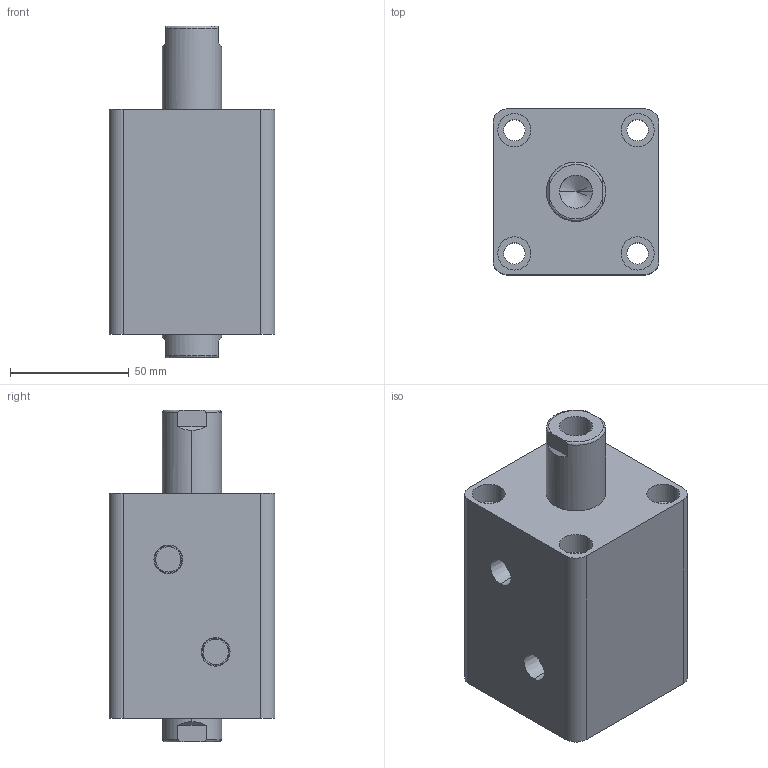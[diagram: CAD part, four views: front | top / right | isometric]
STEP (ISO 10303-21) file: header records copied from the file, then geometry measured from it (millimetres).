
FILE_DESCRIPTION (( 'STEP AP203' ), '1' );
FILE_NAME ('HTB-SW40-25N.STEP', '2019-10-07T09:06:18', ( '微软用户' ), ( '微软中国' ), 'SwSTEP 2.0', 'SolidWorks 2012', '' );
FILE_SCHEMA (( 'CONFIG_CONTROL_DESIGN' ));
Length unit declared in the file: millimetre
Products named in the file (3): HTB-SW40-25N; HTB-SW40-25N活塞杆; HTB-SW40-25掛极
Assembly tree (2 placements, depth 2):
  HTB-SW40-25N
    HTB-SW40-25掛极
    HTB-SW40-25N活塞杆
Bounding box: 70 x 70 x 140 mm (x, y, z)
Volume: 426447.6 mm3; surface area: 73128.7 mm2
Topology: 2 solids, 2 shells, 100 faces, 228 edges, 146 vertices
Faces by surface type: cylinder 48, plane 32, torus 12, cone 8
Entity records: 3237 total; most frequent: CARTESIAN_POINT 595, DIRECTION 542, ORIENTED_EDGE 448, AXIS2_PLACEMENT_3D 229, EDGE_CURVE 224, VERTEX_POINT 146, EDGE_LOOP 128, CIRCLE 124
